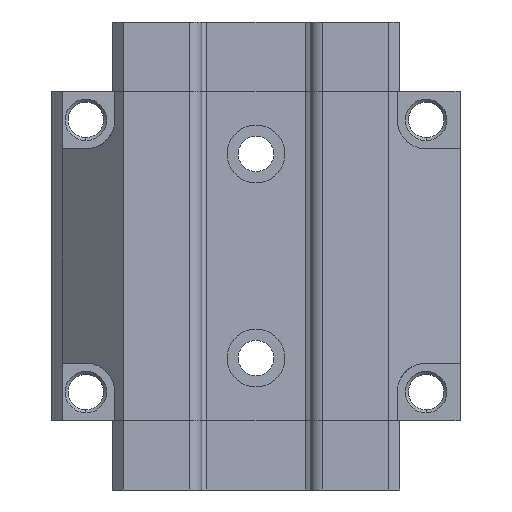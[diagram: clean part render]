
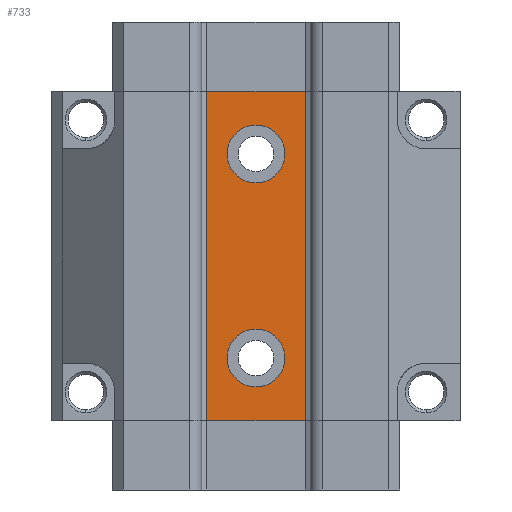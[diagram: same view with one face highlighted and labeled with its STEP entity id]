
A CAD part, front view. The second image highlights one B-rep face of the part: STEP entity #733.
In plain terms, the highlighted planar face has unit normal (0, -1, 0).
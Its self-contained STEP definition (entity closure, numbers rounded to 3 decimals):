
#43 = VERTEX_POINT ( 'NONE', #2557 ) ;
#126 = EDGE_CURVE ( 'NONE', #43, #127, #2745, .T. ) ;
#127 = VERTEX_POINT ( 'NONE', #2746 ) ;
#171 = VERTEX_POINT ( 'NONE', #2841 ) ;
#173 = EDGE_CURVE ( 'NONE', #171, #174, #2840, .T. ) ;
#174 = VERTEX_POINT ( 'NONE', #2860 ) ;
#576 = VERTEX_POINT ( 'NONE', #3617 ) ;
#578 = EDGE_CURVE ( 'NONE', #579, #576, #3616, .T. ) ;
#579 = VERTEX_POINT ( 'NONE', #3612 ) ;
#607 = VERTEX_POINT ( 'NONE', #3667 ) ;
#609 = EDGE_CURVE ( 'NONE', #607, #610, #3666, .T. ) ;
#610 = VERTEX_POINT ( 'NONE', #3662 ) ;
#708 = EDGE_CURVE ( 'NONE', #174, #171, #3850, .T. ) ;
#732 = EDGE_CURVE ( 'NONE', #610, #576, #3810, .T. ) ;
#733 = ADVANCED_FACE ( 'NONE', ( #3806, #3805, #3804 ), #3925, .F. ) ;
#734 = EDGE_LOOP ( 'NONE', ( #735, #737 ) ) ;
#735 = ORIENTED_EDGE ( 'NONE', *, *, #736, .F. ) ;
#736 = EDGE_CURVE ( 'NONE', #127, #43, #3896, .T. ) ;
#737 = ORIENTED_EDGE ( 'NONE', *, *, #126, .F. ) ;
#738 = EDGE_LOOP ( 'NONE', ( #739, #801 ) ) ;
#739 = ORIENTED_EDGE ( 'NONE', *, *, #708, .F. ) ;
#749 = ORIENTED_EDGE ( 'NONE', *, *, #999, .T. ) ;
#753 = ORIENTED_EDGE ( 'NONE', *, *, #732, .F. ) ;
#798 = ORIENTED_EDGE ( 'NONE', *, *, #609, .F. ) ;
#801 = ORIENTED_EDGE ( 'NONE', *, *, #173, .F. ) ;
#865 = ORIENTED_EDGE ( 'NONE', *, *, #578, .T. ) ;
#999 = EDGE_CURVE ( 'NONE', #607, #579, #4302, .T. ) ;
#1020 = EDGE_LOOP ( 'NONE', ( #865, #753, #798, #749 ) ) ;
#2557 = CARTESIAN_POINT ( 'NONE',  ( 0., 5.6, 38.5 ) ) ;
#2741 = DIRECTION ( 'NONE',  ( 0., 0., -1. ) ) ;
#2742 = DIRECTION ( 'NONE',  ( 0., -1., 0. ) ) ;
#2743 = CARTESIAN_POINT ( 'NONE',  ( 0., 5.6, 30. ) ) ;
#2744 = AXIS2_PLACEMENT_3D ( 'NONE', #2743, #2742, #2741 ) ;
#2745 = CIRCLE ( 'NONE', #2744, 8.5 ) ;
#2746 = CARTESIAN_POINT ( 'NONE',  ( 0., 5.6, 21.5 ) ) ;
#2836 = DIRECTION ( 'NONE',  ( 0., 0., -1. ) ) ;
#2837 = DIRECTION ( 'NONE',  ( 0., -1., 0. ) ) ;
#2838 = CARTESIAN_POINT ( 'NONE',  ( 0., 5.6, -30. ) ) ;
#2839 = AXIS2_PLACEMENT_3D ( 'NONE', #2838, #2837, #2836 ) ;
#2840 = CIRCLE ( 'NONE', #2839, 8.5 ) ;
#2841 = CARTESIAN_POINT ( 'NONE',  ( 0., 5.6, -21.5 ) ) ;
#2860 = CARTESIAN_POINT ( 'NONE',  ( 0., 5.6, -38.5 ) ) ;
#3612 = CARTESIAN_POINT ( 'NONE',  ( 19.777, 5.6, 48.5 ) ) ;
#3613 = DIRECTION ( 'NONE',  ( -1., 0., 0. ) ) ;
#3614 = VECTOR ( 'NONE', #3613, 1000. ) ;
#3615 = CARTESIAN_POINT ( 'NONE',  ( -57., 5.6, 48.5 ) ) ;
#3616 = LINE ( 'NONE', #3615, #3614 ) ;
#3617 = CARTESIAN_POINT ( 'NONE',  ( -19.777, 5.6, 48.5 ) ) ;
#3662 = CARTESIAN_POINT ( 'NONE',  ( -19.777, 5.6, -48.5 ) ) ;
#3663 = DIRECTION ( 'NONE',  ( -1., 0., 0. ) ) ;
#3664 = VECTOR ( 'NONE', #3663, 1000. ) ;
#3665 = CARTESIAN_POINT ( 'NONE',  ( -57., 5.6, -48.5 ) ) ;
#3666 = LINE ( 'NONE', #3665, #3664 ) ;
#3667 = CARTESIAN_POINT ( 'NONE',  ( 19.777, 5.6, -48.5 ) ) ;
#3804 = FACE_OUTER_BOUND ( 'NONE', #1020, .T. ) ;
#3805 = FACE_BOUND ( 'NONE', #738, .T. ) ;
#3806 = FACE_BOUND ( 'NONE', #734, .T. ) ;
#3807 = DIRECTION ( 'NONE',  ( 0., 0., 1. ) ) ;
#3808 = VECTOR ( 'NONE', #3807, 1000. ) ;
#3809 = CARTESIAN_POINT ( 'NONE',  ( -19.777, 5.6, -68.8 ) ) ;
#3810 = LINE ( 'NONE', #3809, #3808 ) ;
#3846 = DIRECTION ( 'NONE',  ( 0., 0., -1. ) ) ;
#3847 = DIRECTION ( 'NONE',  ( 0., -1., 0. ) ) ;
#3848 = CARTESIAN_POINT ( 'NONE',  ( 0., 5.6, -30. ) ) ;
#3849 = AXIS2_PLACEMENT_3D ( 'NONE', #3848, #3847, #3846 ) ;
#3850 = CIRCLE ( 'NONE', #3849, 8.5 ) ;
#3895 = CARTESIAN_POINT ( 'NONE',  ( 0., 5.6, 30. ) ) ;
#3896 = CIRCLE ( 'NONE', #3961, 8.5 ) ;
#3898 = AXIS2_PLACEMENT_3D ( 'NONE', #4021, #4020, #4019 ) ;
#3925 = PLANE ( 'NONE',  #3898 ) ;
#3959 = DIRECTION ( 'NONE',  ( 0., 0., -1. ) ) ;
#3960 = DIRECTION ( 'NONE',  ( 0., -1., 0. ) ) ;
#3961 = AXIS2_PLACEMENT_3D ( 'NONE', #3895, #3960, #3959 ) ;
#4019 = DIRECTION ( 'NONE',  ( -1., 0., 0. ) ) ;
#4020 = DIRECTION ( 'NONE',  ( 0., 1., 0. ) ) ;
#4021 = CARTESIAN_POINT ( 'NONE',  ( -19.777, 5.6, -68.8 ) ) ;
#4299 = DIRECTION ( 'NONE',  ( 0., 0., 1. ) ) ;
#4300 = VECTOR ( 'NONE', #4299, 1000. ) ;
#4301 = CARTESIAN_POINT ( 'NONE',  ( 19.777, 5.6, -68.8 ) ) ;
#4302 = LINE ( 'NONE', #4301, #4300 ) ;
